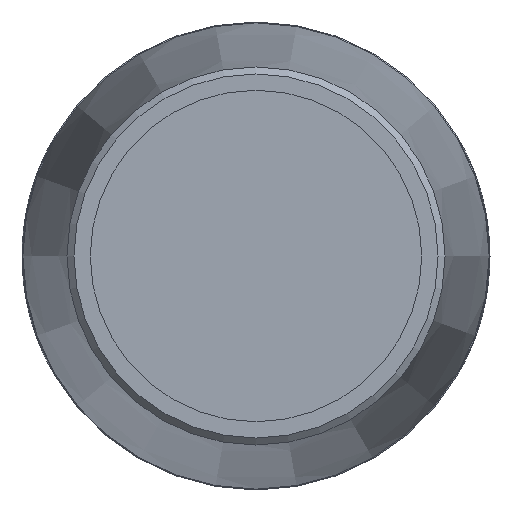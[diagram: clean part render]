
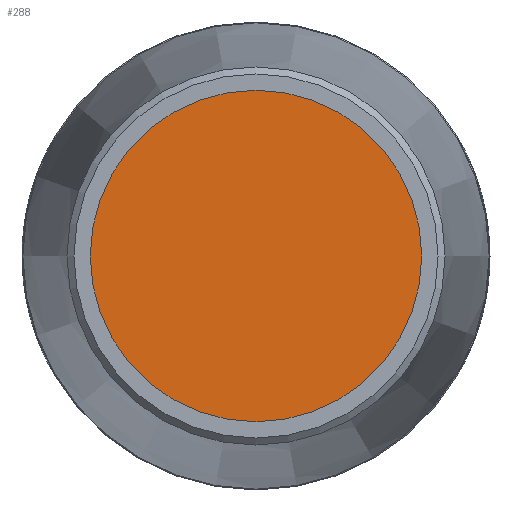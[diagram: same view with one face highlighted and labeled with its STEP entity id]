
A CAD part, left-side view. The second image highlights one B-rep face of the part: STEP entity #288.
In plain terms, the highlighted planar face has unit normal (-1, 0, 0).
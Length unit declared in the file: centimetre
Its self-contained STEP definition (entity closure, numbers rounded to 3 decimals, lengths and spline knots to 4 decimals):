
#46=PLANE('',#317);
#71=FACE_OUTER_BOUND('',#97,.T.);
#97=EDGE_LOOP('',(#203));
#128=CIRCLE('',#316,1.275);
#142=VERTEX_POINT('',#437);
#168=EDGE_CURVE('',#142,#142,#128,.T.);
#203=ORIENTED_EDGE('',*,*,#168,.T.);
#288=ADVANCED_FACE('',(#71),#46,.T.);
#316=AXIS2_PLACEMENT_3D('',#438,#363,#364);
#317=AXIS2_PLACEMENT_3D('',#439,#365,#366);
#363=DIRECTION('center_axis',(-1.,0.,0.));
#364=DIRECTION('ref_axis',(0.,0.,1.));
#365=DIRECTION('center_axis',(-1.,0.,0.));
#366=DIRECTION('ref_axis',(0.,0.,1.));
#437=CARTESIAN_POINT('',(-8.85,-1.275,0.));
#438=CARTESIAN_POINT('Origin',(-8.85,0.,0.));
#439=CARTESIAN_POINT('Origin',(-8.85,0.,0.));
